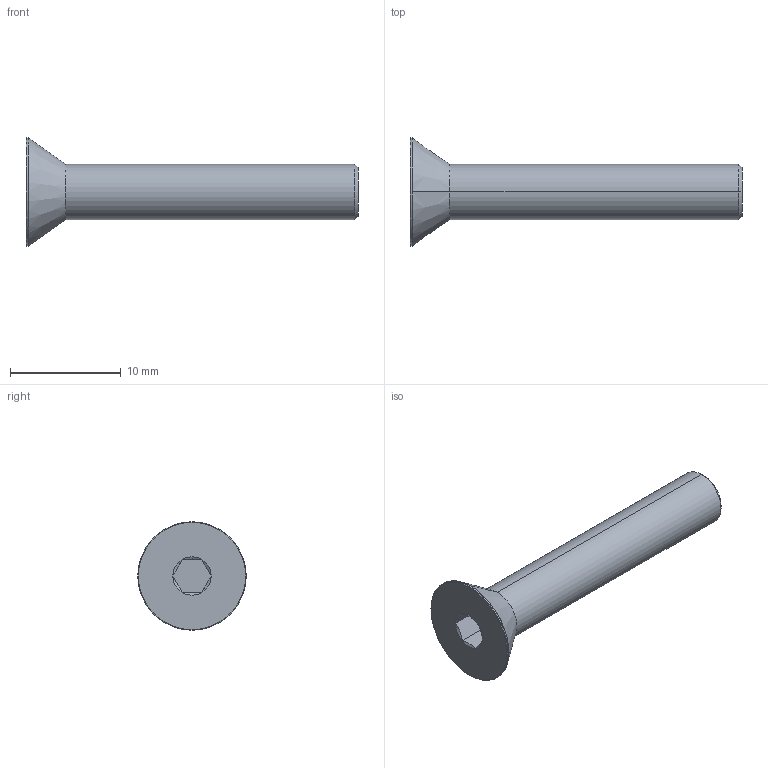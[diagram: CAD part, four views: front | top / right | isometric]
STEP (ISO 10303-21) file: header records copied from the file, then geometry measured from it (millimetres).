
FILE_DESCRIPTION (( 'STEP AP203' ), '1' );
FILE_NAME ('LGDB-TDE-M5x30.STEP', '2026-08-10T11:37:38', ( '' ), ( '' ), 'SwSTEP 2.0', 'SolidWorks 2020', '' );
FILE_SCHEMA (( 'CONFIG_CONTROL_DESIGN' ));
Length unit declared in the file: millimetre
Products named in the file (1): LGDB-TDE-M5x30
Bounding box: 30 x 9.8 x 9.8 mm (x, y, z)
Volume: 664.5 mm3; surface area: 634.4 mm2
Topology: 1 solids, 1 shells, 28 faces, 53 edges, 28 vertices
Faces by surface type: cone 11, plane 9, torus 4, cylinder 4
Entity records: 784 total; most frequent: CARTESIAN_POINT 145, DIRECTION 129, ORIENTED_EDGE 106, AXIS2_PLACEMENT_3D 54, EDGE_CURVE 53, EDGE_LOOP 29, VERTEX_POINT 28, ADVANCED_FACE 28
